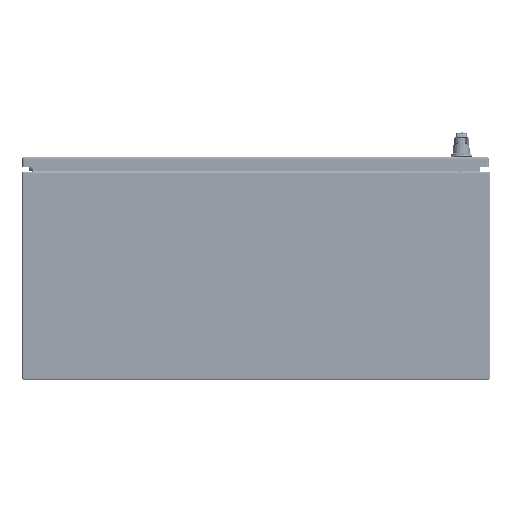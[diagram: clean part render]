
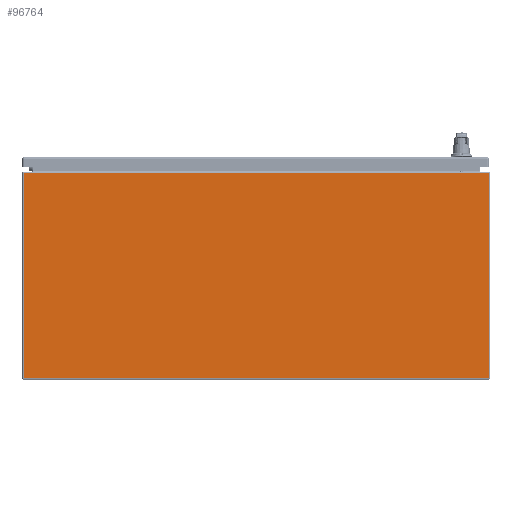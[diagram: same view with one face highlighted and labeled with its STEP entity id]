
A CAD part, front view. The second image highlights one B-rep face of the part: STEP entity #96764.
In plain terms, the highlighted planar face has unit normal (0, -1, 0).
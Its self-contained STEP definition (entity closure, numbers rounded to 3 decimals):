
#8546=LINE('',#138041,#14821);
#8549=LINE('',#138063,#14824);
#8550=LINE('',#138065,#14825);
#8551=LINE('',#138066,#14826);
#14821=VECTOR('',#113209,0.394);
#14824=VECTOR('',#113240,0.394);
#14825=VECTOR('',#113241,0.394);
#14826=VECTOR('',#113242,0.394);
#22703=FACE_OUTER_BOUND('',#28662,.T.);
#28662=EDGE_LOOP('',(#64724,#64725,#64726,#64727));
#39547=VERTEX_POINT('',#138030);
#39550=VERTEX_POINT('',#138040);
#39555=VERTEX_POINT('',#138062);
#39556=VERTEX_POINT('',#138064);
#49311=EDGE_CURVE('',#39547,#39550,#8546,.T.);
#49322=EDGE_CURVE('',#39555,#39547,#8549,.T.);
#49323=EDGE_CURVE('',#39555,#39556,#8550,.T.);
#49324=EDGE_CURVE('',#39550,#39556,#8551,.T.);
#64724=ORIENTED_EDGE('',*,*,#49311,.F.);
#64725=ORIENTED_EDGE('',*,*,#49322,.F.);
#64726=ORIENTED_EDGE('',*,*,#49323,.T.);
#64727=ORIENTED_EDGE('',*,*,#49324,.F.);
#94818=PLANE('',#103849);
#96764=ADVANCED_FACE('',(#22703),#94818,.T.);
#103849=AXIS2_PLACEMENT_3D('',#138061,#113238,#113239);
#113209=DIRECTION('',(1.,0.,0.));
#113238=DIRECTION('center_axis',(0.,-1.,0.));
#113239=DIRECTION('ref_axis',(-1.,0.,0.));
#113240=DIRECTION('',(0.,0.,1.));
#113241=DIRECTION('',(1.,0.,0.));
#113242=DIRECTION('',(0.,0.,-1.));
#138030=CARTESIAN_POINT('',(-17.901,-30.,15.901));
#138040=CARTESIAN_POINT('',(17.901,-30.,15.901));
#138041=CARTESIAN_POINT('',(0.025,-30.,15.901));
#138061=CARTESIAN_POINT('Origin',(18.,-30.,16.));
#138062=CARTESIAN_POINT('',(-17.901,-30.,0.099));
#138063=CARTESIAN_POINT('',(-17.901,-30.,8.));
#138064=CARTESIAN_POINT('',(17.901,-30.,0.099));
#138065=CARTESIAN_POINT('',(-8.951,-30.,0.099));
#138066=CARTESIAN_POINT('',(17.901,-30.,8.));
